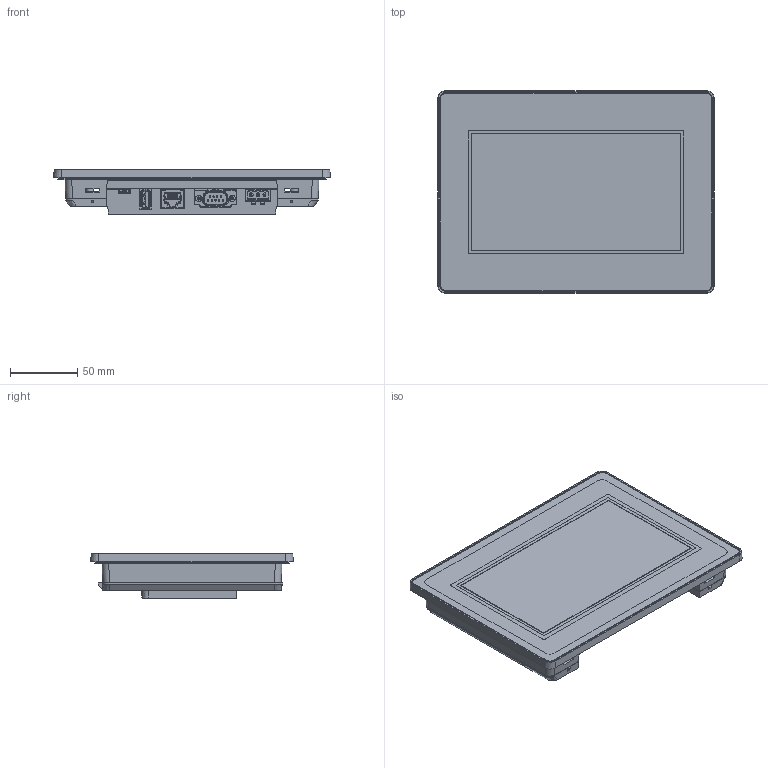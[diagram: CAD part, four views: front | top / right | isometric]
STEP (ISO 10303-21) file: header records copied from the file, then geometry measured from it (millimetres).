
FILE_DESCRIPTION((''),'2;1');
FILE_NAME('PFXET5400-3D_ASM','2025-08-25T15:38:16',('SESA523511'),('Schneider-Electric'),'CREO PARAMETRIC BY PTC INC, 2022484','CREO PARAMETRIC BY PTC INC, 2022484','');
FILE_SCHEMA(('AP242_MANAGED_MODEL_BASED_3D_ENGINEERING_MIM_LF { 1 0 10303 442 1 1 4 }'));
Products named in the file (13): TME5148601; TME5149501; GDE2171401_AF22_1; HUA2291101_1; TME8465801_1; NNZ4594901_1; HUA20681_COPY; D09P33E6RV09LFC_COPY_1; 1CNR005385_MIG17_1; HUA17606_MIG17_1; 10118194-0001LF_MICROB_1; 400-ASSEMBLY_ASM; PFXET5400-3D_ASM
Assembly tree (15 placements, depth 3):
  PFXET5400-3D_ASM
    400-ASSEMBLY_ASM
      TME5148601
      TME5149501
      GDE2171401_AF22_1
      HUA2291101_1  x4
      TME8465801_1
      NNZ4594901_1
      HUA20681_COPY
      D09P33E6RV09LFC_COPY_1
      1CNR005385_MIG17_1
      HUA17606_MIG17_1
      10118194-0001LF_MICROB_1
Bounding box: 205.5 x 150.5 x 33 mm (x, y, z)
Volume: 280454.1 mm3; surface area: 235875.6 mm2
Topology: 14 solids, 14 shells, 2774 faces, 7754 edges, 5017 vertices
Faces by surface type: plane 1763, cylinder 750, cone 117, bspline 53, torus 48, extrusion 28, sphere 15
Entity records: 118025 total; most frequent: CARTESIAN_POINT 19925, ORIENTED_EDGE 14982, DIRECTION 13905, PRESENTATION_STYLE_ASSIGNMENT 7932, STYLED_ITEM 7515, CURVE_STYLE 7503, EDGE_CURVE 7491, VECTOR 5593
